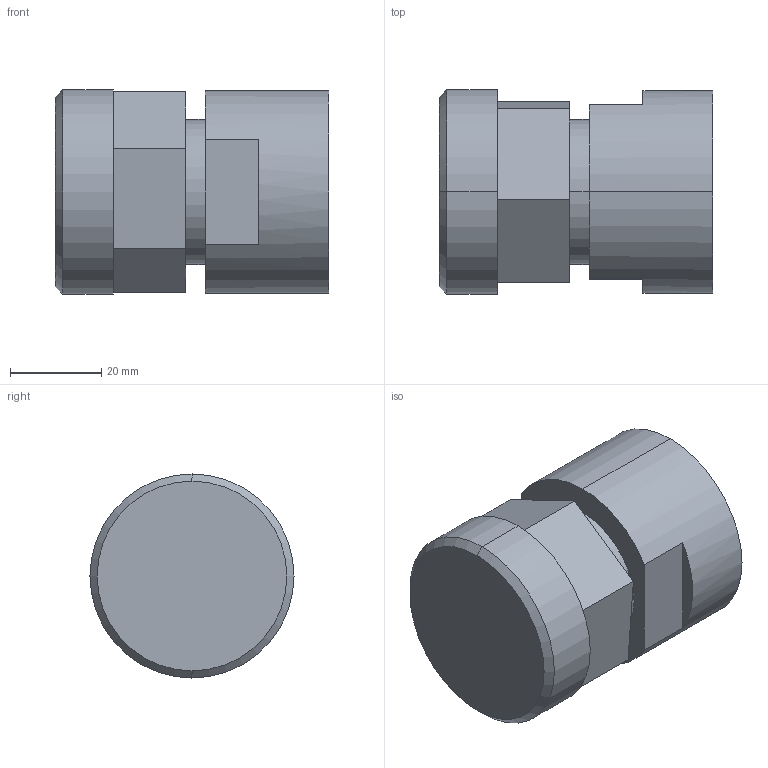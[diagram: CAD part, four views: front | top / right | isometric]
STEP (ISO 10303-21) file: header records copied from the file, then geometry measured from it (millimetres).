
FILE_DESCRIPTION (( 'STEP AP214' ), '1' );
FILE_NAME ('16-fnpt-with-top-mount-adapter.STEP', '2012-11-27T18:06:55', ( '' ), ( '' ), 'SwSTEP 2.0', 'SolidWorks 2012', '' );
FILE_SCHEMA (( 'AUTOMOTIVE_DESIGN' ));
Length unit declared in the file: inch
Products named in the file (1): 16-fnpt-with-top-mount-adapter
Bounding box: 59.82 x 44.7 x 44.7 mm (x, y, z)
Volume: 71218.3 mm3; surface area: 14311.5 mm2
Topology: 1 solids, 1 shells, 26 faces, 58 edges, 38 vertices
Faces by surface type: plane 16, cylinder 8, cone 2
Entity records: 807 total; most frequent: DIRECTION 134, CARTESIAN_POINT 123, ORIENTED_EDGE 116, EDGE_CURVE 58, AXIS2_PLACEMENT_3D 49, VERTEX_POINT 38, LINE 36, VECTOR 36
